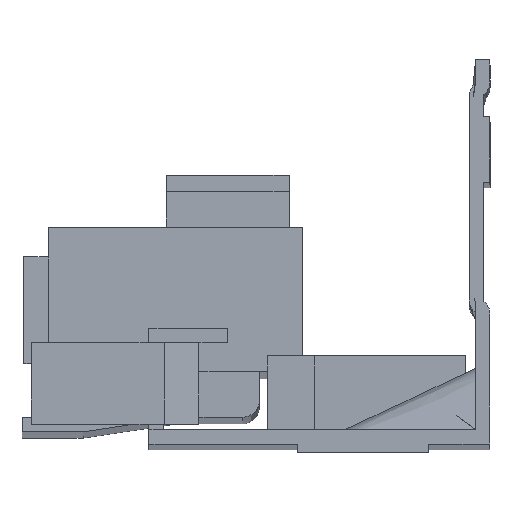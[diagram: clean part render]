
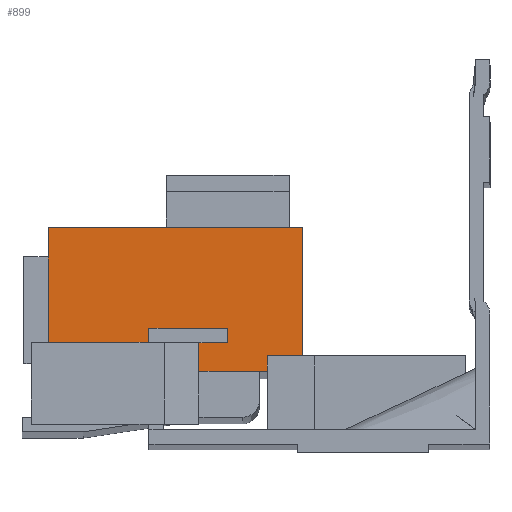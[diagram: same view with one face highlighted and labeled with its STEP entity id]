
A CAD part, front view. The second image highlights one B-rep face of the part: STEP entity #899.
In plain terms, the highlighted planar face has unit normal (0, -1, 0).
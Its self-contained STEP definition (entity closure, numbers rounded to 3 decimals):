
#373 = ORIENTED_EDGE ( 'NONE', *, *, #4757, .T. ) ;
#374 = ORIENTED_EDGE ( 'NONE', *, *, #4758, .F. ) ;
#375 = ORIENTED_EDGE ( 'NONE', *, *, #4759, .F. ) ;
#376 = ORIENTED_EDGE ( 'NONE', *, *, #4760, .F. ) ;
#377 = ORIENTED_EDGE ( 'NONE', *, *, #4783, .F. ) ;
#378 = ORIENTED_EDGE ( 'NONE', *, *, #4787, .F. ) ;
#379 = ORIENTED_EDGE ( 'NONE', *, *, #4796, .T. ) ;
#380 = ORIENTED_EDGE ( 'NONE', *, *, #4811, .T. ) ;
#381 = ORIENTED_EDGE ( 'NONE', *, *, #4761, .T. ) ;
#382 = ORIENTED_EDGE ( 'NONE', *, *, #4762, .T. ) ;
#383 = ORIENTED_EDGE ( 'NONE', *, *, #4763, .T. ) ;
#384 = ORIENTED_EDGE ( 'NONE', *, *, #4764, .T. ) ;
#521 = EDGE_LOOP ( 'NONE', ( #384, #383, #382, #381, #380, #379, #378, #377, #376, #375, #374, #373 ) ) ;
#899 = ADVANCED_FACE ( 'NONE', ( #3073 ), #1742, .F. ) ;
#1204 = VERTEX_POINT ( 'NONE', #2775 ) ;
#1208 = VERTEX_POINT ( 'NONE', #2777 ) ;
#1211 = VERTEX_POINT ( 'NONE', #2778 ) ;
#1216 = VERTEX_POINT ( 'NONE', #2780 ) ;
#1739 = DIRECTION ( 'NONE',  ( -1., 0., 0. ) ) ;
#1740 = DIRECTION ( 'NONE',  ( 0., 1., 0. ) ) ;
#1741 = CARTESIAN_POINT ( 'NONE',  ( -49.9, -20., -27.058 ) ) ;
#1742 = PLANE ( 'NONE',  #4902 ) ;
#1876 = VERTEX_POINT ( 'NONE', #2893 ) ;
#1885 = VERTEX_POINT ( 'NONE', #2909 ) ;
#1887 = VERTEX_POINT ( 'NONE', #2913 ) ;
#1889 = VERTEX_POINT ( 'NONE', #2916 ) ;
#1900 = VERTEX_POINT ( 'NONE', #2937 ) ;
#2009 = VERTEX_POINT ( 'NONE', #3034 ) ;
#2011 = VERTEX_POINT ( 'NONE', #3036 ) ;
#2013 = VERTEX_POINT ( 'NONE', #3037 ) ;
#2775 = CARTESIAN_POINT ( 'NONE',  ( -35.5, -20., -23.608 ) ) ;
#2777 = CARTESIAN_POINT ( 'NONE',  ( -32., -20., -21.858 ) ) ;
#2778 = CARTESIAN_POINT ( 'NONE',  ( -32., -20., -23.608 ) ) ;
#2780 = CARTESIAN_POINT ( 'NONE',  ( -22.9, -20., -25.181 ) ) ;
#2893 = CARTESIAN_POINT ( 'NONE',  ( -22.9, -20., -9.558 ) ) ;
#2909 = CARTESIAN_POINT ( 'NONE',  ( -41.6, -20., -21.858 ) ) ;
#2913 = CARTESIAN_POINT ( 'NONE',  ( -53.9, -20., -23.558 ) ) ;
#2916 = CARTESIAN_POINT ( 'NONE',  ( -53.9, -20., -9.558 ) ) ;
#2937 = CARTESIAN_POINT ( 'NONE',  ( -41.6, -20., -23.558 ) ) ;
#3034 = CARTESIAN_POINT ( 'NONE',  ( -27.15, -20., -25.181 ) ) ;
#3036 = CARTESIAN_POINT ( 'NONE',  ( -27.15, -20., -27.058 ) ) ;
#3037 = CARTESIAN_POINT ( 'NONE',  ( -35.5, -20., -27.058 ) ) ;
#3073 = FACE_OUTER_BOUND ( 'NONE', #521, .T. ) ;
#3809 = CARTESIAN_POINT ( 'NONE',  ( -35.5, -20., -27.058 ) ) ;
#3811 = DIRECTION ( 'NONE',  ( 0., 0., -1. ) ) ;
#3813 = CARTESIAN_POINT ( 'NONE',  ( -32., -20., -23.608 ) ) ;
#3815 = DIRECTION ( 'NONE',  ( 1., 0., 0. ) ) ;
#3818 = CARTESIAN_POINT ( 'NONE',  ( -32., -20., -21.831 ) ) ;
#3820 = DIRECTION ( 'NONE',  ( 0., 0., 1. ) ) ;
#3822 = CARTESIAN_POINT ( 'NONE',  ( -41.6, -20., -21.858 ) ) ;
#3824 = DIRECTION ( 'NONE',  ( -1., 0., 0. ) ) ;
#3827 = CARTESIAN_POINT ( 'NONE',  ( -22.9, -20., -27.058 ) ) ;
#3829 = DIRECTION ( 'NONE',  ( 0., 0., 1. ) ) ;
#3831 = CARTESIAN_POINT ( 'NONE',  ( -49.9, -20., -25.181 ) ) ;
#3833 = DIRECTION ( 'NONE',  ( 1., 0., 0. ) ) ;
#3836 = CARTESIAN_POINT ( 'NONE',  ( -27.15, -20., -27.058 ) ) ;
#3838 = DIRECTION ( 'NONE',  ( 0., 0., 1. ) ) ;
#3840 = CARTESIAN_POINT ( 'NONE',  ( -49.9, -20., -27.058 ) ) ;
#3842 = DIRECTION ( 'NONE',  ( 1., 0., 0. ) ) ;
#3844 = LINE ( 'NONE', #3809, #3846 ) ;
#3846 = VECTOR ( 'NONE', #3811, 1000. ) ;
#3848 = LINE ( 'NONE', #3813, #3850 ) ;
#3850 = VECTOR ( 'NONE', #3815, 1000. ) ;
#3852 = LINE ( 'NONE', #3818, #3853 ) ;
#3853 = VECTOR ( 'NONE', #3820, 1000. ) ;
#3855 = LINE ( 'NONE', #3822, #3857 ) ;
#3857 = VECTOR ( 'NONE', #3824, 1000. ) ;
#3859 = LINE ( 'NONE', #3827, #3861 ) ;
#3861 = VECTOR ( 'NONE', #3829, 1000. ) ;
#3862 = LINE ( 'NONE', #3831, #3864 ) ;
#3864 = VECTOR ( 'NONE', #3833, 1000. ) ;
#3866 = LINE ( 'NONE', #3836, #3868 ) ;
#3868 = VECTOR ( 'NONE', #3838, 1000. ) ;
#3870 = LINE ( 'NONE', #3840, #3871 ) ;
#3871 = VECTOR ( 'NONE', #3842, 1000. ) ;
#3926 = CARTESIAN_POINT ( 'NONE',  ( -41.6, -20., -35.931 ) ) ;
#3928 = DIRECTION ( 'NONE',  ( 0., 0., -1. ) ) ;
#3938 = LINE ( 'NONE', #3926, #3940 ) ;
#3940 = VECTOR ( 'NONE', #3928, 1000. ) ;
#3944 = CARTESIAN_POINT ( 'NONE',  ( -49.9, -20., -23.558 ) ) ;
#3946 = DIRECTION ( 'NONE',  ( -1., 0., 0. ) ) ;
#3952 = LINE ( 'NONE', #3944, #3954 ) ;
#3954 = VECTOR ( 'NONE', #3946, 1000. ) ;
#3984 = CARTESIAN_POINT ( 'NONE',  ( -53.9, -20., -29.558 ) ) ;
#3985 = LINE ( 'NONE', #3984, #3987 ) ;
#3986 = DIRECTION ( 'NONE',  ( 0., 0., -1. ) ) ;
#3987 = VECTOR ( 'NONE', #3986, 1000. ) ;
#4039 = LINE ( 'NONE', #4051, #4041 ) ;
#4041 = VECTOR ( 'NONE', #4052, 1000. ) ;
#4051 = CARTESIAN_POINT ( 'NONE',  ( -53.9, -20., -9.558 ) ) ;
#4052 = DIRECTION ( 'NONE',  ( -1., 0., 0. ) ) ;
#4757 = EDGE_CURVE ( 'NONE', #1204, #2013, #3844, .T. ) ;
#4758 = EDGE_CURVE ( 'NONE', #1204, #1211, #3848, .T. ) ;
#4759 = EDGE_CURVE ( 'NONE', #1211, #1208, #3852, .T. ) ;
#4760 = EDGE_CURVE ( 'NONE', #1208, #1885, #3855, .T. ) ;
#4761 = EDGE_CURVE ( 'NONE', #1216, #1876, #3859, .T. ) ;
#4762 = EDGE_CURVE ( 'NONE', #2009, #1216, #3862, .T. ) ;
#4763 = EDGE_CURVE ( 'NONE', #2011, #2009, #3866, .T. ) ;
#4764 = EDGE_CURVE ( 'NONE', #2013, #2011, #3870, .T. ) ;
#4783 = EDGE_CURVE ( 'NONE', #1885, #1900, #3938, .T. ) ;
#4787 = EDGE_CURVE ( 'NONE', #1900, #1887, #3952, .T. ) ;
#4796 = EDGE_CURVE ( 'NONE', #1889, #1887, #3985, .T. ) ;
#4811 = EDGE_CURVE ( 'NONE', #1876, #1889, #4039, .T. ) ;
#4902 = AXIS2_PLACEMENT_3D ( 'NONE', #1741, #1740, #1739 ) ;
